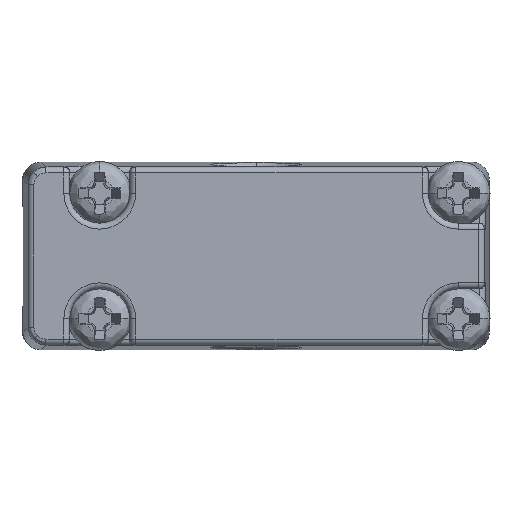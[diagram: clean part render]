
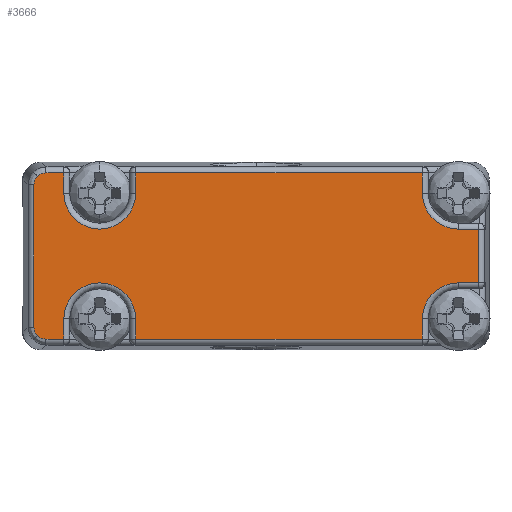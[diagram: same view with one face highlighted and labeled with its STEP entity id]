
A CAD part, front view. The second image highlights one B-rep face of the part: STEP entity #3666.
In plain terms, the highlighted planar face has unit normal (0, -1, 0) as drawn and (0, 0, 1) by its records, which use the part's own axes.
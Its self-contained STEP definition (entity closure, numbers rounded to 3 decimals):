
#1647=CARTESIAN_POINT('',(37.805,14.505,12.));
#1648=CARTESIAN_POINT('',(37.619,14.692,12.));
#1649=CARTESIAN_POINT('',(37.362,14.798,12.));
#1650=CARTESIAN_POINT('',(37.099,14.798,12.));
#1652=CARTESIAN_POINT('',(38.098,13.799,12.));
#1653=CARTESIAN_POINT('',(38.098,14.062,12.));
#1654=CARTESIAN_POINT('',(37.992,14.319,12.));
#1655=CARTESIAN_POINT('',(37.805,14.505,12.));
#1657=CARTESIAN_POINT('',(37.805,1.195,12.));
#1658=CARTESIAN_POINT('',(37.992,1.381,12.));
#1659=CARTESIAN_POINT('',(38.098,1.638,12.));
#1660=CARTESIAN_POINT('',(38.098,1.901,12.));
#1662=CARTESIAN_POINT('',(37.099,0.902,12.));
#1663=CARTESIAN_POINT('',(37.362,0.902,12.));
#1664=CARTESIAN_POINT('',(37.619,1.008,12.));
#1665=CARTESIAN_POINT('',(37.805,1.195,12.));
#1667=CARTESIAN_POINT('',(32.6,2.6,12.));
#1668=DIRECTION('',(0.,0.,-1.));
#1669=DIRECTION('',(-1.,0.,0.));
#1670=AXIS2_PLACEMENT_3D('',#1667,#1668,#1669);
#1672=CARTESIAN_POINT('',(2.6,2.6,12.));
#1673=DIRECTION('',(0.,0.,-1.));
#1674=DIRECTION('',(0.,1.,0.));
#1675=AXIS2_PLACEMENT_3D('',#1672,#1673,#1674);
#1677=CARTESIAN_POINT('',(2.6,13.1,12.));
#1678=DIRECTION('',(0.,0.,-1.));
#1679=DIRECTION('',(1.,0.,0.));
#1680=AXIS2_PLACEMENT_3D('',#1677,#1678,#1679);
#1682=CARTESIAN_POINT('',(32.6,13.1,12.));
#1683=DIRECTION('',(0.,0.,-1.));
#1684=DIRECTION('',(1.,0.,0.));
#1685=AXIS2_PLACEMENT_3D('',#1682,#1683,#1684);
#1687=DIRECTION('',(1.,0.,0.));
#1688=VECTOR('',#1687,1.499);
#1689=CARTESIAN_POINT('',(35.6,14.798,12.));
#1690=LINE('',#1689,#1688);
#1714=DIRECTION('',(0.,1.,0.));
#1715=VECTOR('',#1714,1.698);
#1716=CARTESIAN_POINT('',(35.6,13.1,12.));
#1717=LINE('',#1716,#1715);
#1774=DIRECTION('',(1.,0.,0.));
#1775=VECTOR('',#1774,24.);
#1776=CARTESIAN_POINT('',(5.6,14.798,12.));
#1777=LINE('',#1776,#1775);
#1793=DIRECTION('',(0.,-1.,0.));
#1794=VECTOR('',#1793,1.698);
#1795=CARTESIAN_POINT('',(29.6,14.798,12.));
#1796=LINE('',#1795,#1794);
#1816=DIRECTION('',(0.,1.,0.));
#1817=VECTOR('',#1816,1.698);
#1818=CARTESIAN_POINT('',(5.6,13.1,12.));
#1819=LINE('',#1818,#1817);
#1839=DIRECTION('',(1.,0.,0.));
#1840=VECTOR('',#1839,1.698);
#1841=CARTESIAN_POINT('',(0.902,10.1,12.));
#1842=LINE('',#1841,#1840);
#1862=DIRECTION('',(0.,1.,0.));
#1863=VECTOR('',#1862,4.5);
#1864=CARTESIAN_POINT('',(0.902,5.6,12.));
#1865=LINE('',#1864,#1863);
#1885=DIRECTION('',(-1.,0.,0.));
#1886=VECTOR('',#1885,1.698);
#1887=CARTESIAN_POINT('',(2.6,5.6,12.));
#1888=LINE('',#1887,#1886);
#1908=DIRECTION('',(0.,1.,0.));
#1909=VECTOR('',#1908,1.698);
#1910=CARTESIAN_POINT('',(5.6,0.902,12.));
#1911=LINE('',#1910,#1909);
#1931=DIRECTION('',(-1.,0.,0.));
#1932=VECTOR('',#1931,24.);
#1933=CARTESIAN_POINT('',(29.6,0.902,12.));
#1934=LINE('',#1933,#1932);
#2014=DIRECTION('',(0.,1.,0.));
#2015=VECTOR('',#2014,1.698);
#2016=CARTESIAN_POINT('',(35.6,0.902,12.));
#2017=LINE('',#2016,#2015);
#2037=DIRECTION('',(-1.,0.,0.));
#2038=VECTOR('',#2037,1.499);
#2039=CARTESIAN_POINT('',(37.099,0.902,12.));
#2040=LINE('',#2039,#2038);
#2723=DIRECTION('',(0.,-1.,0.));
#2724=VECTOR('',#2723,11.897);
#2725=CARTESIAN_POINT('',(38.098,13.799,12.));
#2726=LINE('',#2725,#2724);
#2859=DIRECTION('',(0.,-1.,0.));
#2860=VECTOR('',#2859,1.698);
#2861=CARTESIAN_POINT('',(29.6,2.6,12.));
#2862=LINE('',#2861,#2860);
#2886=CARTESIAN_POINT('',(0.902,10.1,12.));
#2888=VERTEX_POINT('',#2886);
#2909=CARTESIAN_POINT('',(29.6,2.6,12.));
#2911=VERTEX_POINT('',#2909);
#2927=CARTESIAN_POINT('',(5.6,14.798,12.));
#2928=CARTESIAN_POINT('',(29.6,14.798,12.));
#2929=VERTEX_POINT('',#2927);
#2930=VERTEX_POINT('',#2928);
#2945=CARTESIAN_POINT('',(29.6,13.1,12.));
#2946=VERTEX_POINT('',#2945);
#2968=CARTESIAN_POINT('',(37.099,14.798,12.));
#2970=VERTEX_POINT('',#2968);
#2976=CARTESIAN_POINT('',(35.6,13.1,12.));
#2977=VERTEX_POINT('',#2976);
#2985=CARTESIAN_POINT('',(29.6,0.902,12.));
#2987=VERTEX_POINT('',#2985);
#3004=CARTESIAN_POINT('',(5.6,13.1,12.));
#3005=CARTESIAN_POINT('',(2.6,10.1,12.));
#3006=VERTEX_POINT('',#3004);
#3007=VERTEX_POINT('',#3005);
#3008=CARTESIAN_POINT('',(2.6,5.6,12.));
#3009=CARTESIAN_POINT('',(5.6,2.6,12.));
#3010=VERTEX_POINT('',#3008);
#3011=VERTEX_POINT('',#3009);
#3012=CARTESIAN_POINT('',(37.099,0.902,12.));
#3014=VERTEX_POINT('',#3012);
#3073=CARTESIAN_POINT('',(38.098,13.799,12.));
#3075=VERTEX_POINT('',#3073);
#3081=CARTESIAN_POINT('',(38.098,1.901,12.));
#3082=VERTEX_POINT('',#3081);
#3101=CARTESIAN_POINT('',(35.6,0.902,12.));
#3102=CARTESIAN_POINT('',(35.6,2.6,12.));
#3103=VERTEX_POINT('',#3101);
#3104=VERTEX_POINT('',#3102);
#3112=CARTESIAN_POINT('',(5.6,0.902,12.));
#3113=VERTEX_POINT('',#3112);
#3126=VERTEX_POINT('',#1647);
#3136=VERTEX_POINT('',#1657);
#3138=CARTESIAN_POINT('',(0.902,5.6,12.));
#3139=VERTEX_POINT('',#3138);
#3186=CARTESIAN_POINT('',(35.6,14.798,12.));
#3188=VERTEX_POINT('',#3186);
#3616=CARTESIAN_POINT('',(0.,0.,12.));
#3617=DIRECTION('',(0.,0.,-1.));
#3618=DIRECTION('',(-1.,0.,0.));
#3619=AXIS2_PLACEMENT_3D('',#3616,#3617,#3618);
#3620=PLANE('',#3619);
#3622=ORIENTED_EDGE('',*,*,#3621,.T.);
#3624=ORIENTED_EDGE('',*,*,#3623,.F.);
#3626=ORIENTED_EDGE('',*,*,#3625,.F.);
#3628=ORIENTED_EDGE('',*,*,#3627,.T.);
#3630=ORIENTED_EDGE('',*,*,#3629,.F.);
#3632=ORIENTED_EDGE('',*,*,#3631,.F.);
#3634=ORIENTED_EDGE('',*,*,#3633,.T.);
#3636=ORIENTED_EDGE('',*,*,#3635,.T.);
#3638=ORIENTED_EDGE('',*,*,#3637,.F.);
#3640=ORIENTED_EDGE('',*,*,#3639,.T.);
#3642=ORIENTED_EDGE('',*,*,#3641,.T.);
#3644=ORIENTED_EDGE('',*,*,#3643,.T.);
#3646=ORIENTED_EDGE('',*,*,#3645,.F.);
#3648=ORIENTED_EDGE('',*,*,#3647,.T.);
#3650=ORIENTED_EDGE('',*,*,#3649,.T.);
#3652=ORIENTED_EDGE('',*,*,#3651,.T.);
#3654=ORIENTED_EDGE('',*,*,#3653,.F.);
#3656=ORIENTED_EDGE('',*,*,#3655,.T.);
#3658=ORIENTED_EDGE('',*,*,#3657,.T.);
#3660=ORIENTED_EDGE('',*,*,#3659,.T.);
#3661=ORIENTED_EDGE('',*,*,#3606,.F.);
#3663=ORIENTED_EDGE('',*,*,#3662,.T.);
#3664=EDGE_LOOP('',(#3622,#3624,#3626,#3628,#3630,#3632,#3634,#3636,#3638,#3640,
#3642,#3644,#3646,#3648,#3650,#3652,#3654,#3656,#3658,#3660,#3661,#3663));
#3665=FACE_OUTER_BOUND('',#3664,.F.);
#3666=ADVANCED_FACE('',(#3665),#3620,.F.);
#1651=B_SPLINE_CURVE_WITH_KNOTS('',3,(#1647,#1648,#1649,#1650),.UNSPECIFIED.,
.F.,.F.,(4,4),(0.,1.),.UNSPECIFIED.);
#1656=B_SPLINE_CURVE_WITH_KNOTS('',3,(#1652,#1653,#1654,#1655),.UNSPECIFIED.,
.F.,.F.,(4,4),(0.,1.),.UNSPECIFIED.);
#1661=B_SPLINE_CURVE_WITH_KNOTS('',3,(#1657,#1658,#1659,#1660),.UNSPECIFIED.,
.F.,.F.,(4,4),(0.,1.),.UNSPECIFIED.);
#1666=B_SPLINE_CURVE_WITH_KNOTS('',3,(#1662,#1663,#1664,#1665),.UNSPECIFIED.,
.F.,.F.,(4,4),(0.,1.),.UNSPECIFIED.);
#1671=CIRCLE('',#1670,3.);
#1676=CIRCLE('',#1675,3.);
#1681=CIRCLE('',#1680,3.);
#1686=CIRCLE('',#1685,3.);
#3606=EDGE_CURVE('',#2977,#2946,#1686,.T.);
#3621=EDGE_CURVE('',#3188,#2970,#1690,.T.);
#3623=EDGE_CURVE('',#3126,#2970,#1651,.T.);
#3625=EDGE_CURVE('',#3075,#3126,#1656,.T.);
#3627=EDGE_CURVE('',#3075,#3082,#2726,.T.);
#3629=EDGE_CURVE('',#3136,#3082,#1661,.T.);
#3631=EDGE_CURVE('',#3014,#3136,#1666,.T.);
#3633=EDGE_CURVE('',#3014,#3103,#2040,.T.);
#3635=EDGE_CURVE('',#3103,#3104,#2017,.T.);
#3637=EDGE_CURVE('',#2911,#3104,#1671,.T.);
#3639=EDGE_CURVE('',#2911,#2987,#2862,.T.);
#3641=EDGE_CURVE('',#2987,#3113,#1934,.T.);
#3643=EDGE_CURVE('',#3113,#3011,#1911,.T.);
#3645=EDGE_CURVE('',#3010,#3011,#1676,.T.);
#3647=EDGE_CURVE('',#3010,#3139,#1888,.T.);
#3649=EDGE_CURVE('',#3139,#2888,#1865,.T.);
#3651=EDGE_CURVE('',#2888,#3007,#1842,.T.);
#3653=EDGE_CURVE('',#3006,#3007,#1681,.T.);
#3655=EDGE_CURVE('',#3006,#2929,#1819,.T.);
#3657=EDGE_CURVE('',#2929,#2930,#1777,.T.);
#3659=EDGE_CURVE('',#2930,#2946,#1796,.T.);
#3662=EDGE_CURVE('',#2977,#3188,#1717,.T.);
